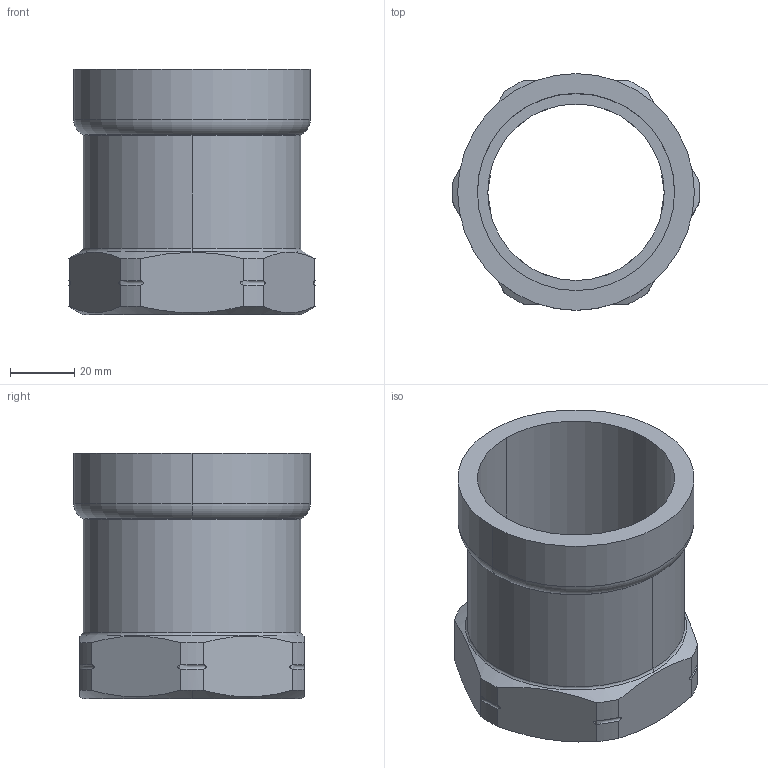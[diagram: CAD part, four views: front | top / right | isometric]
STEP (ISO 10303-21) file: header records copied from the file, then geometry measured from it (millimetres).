
FILE_DESCRIPTION(('Creo Elements/Direct Modeling STEP Export'),'2;1');
FILE_NAME('C9402_2.stp','2020-06-18T13:13:23',(''),(''),'PTC Creo Elements/Direct Modeling STEP processor for AP214 (Solid Model)','PTC Creo Elements/Direct Modeling 19.0C 15-Aug-2015 (C) Parametric Technology GmbH','');
FILE_SCHEMA(('AUTOMOTIVE_DESIGN { 1 0 10303 214 1 1 1 1 }'));
Length unit declared in the file: millimetre
Products named in the file (2): S9402_2
Assembly tree (1 placements, depth 2):
  S9402_2
    S9402_2
Bounding box: 77 x 73.8 x 76.47 mm (x, y, z)
Volume: 84144.4 mm3; surface area: 35126.8 mm2
Topology: 1 solids, 1 shells, 47 faces, 126 edges, 82 vertices
Faces by surface type: cylinder 18, torus 12, plane 9, cone 8
Entity records: 3997 total; most frequent: CARTESIAN_POINT 2857, ORIENTED_EDGE 252, DIRECTION 198, EDGE_CURVE 126, AXIS2_PLACEMENT_3D 86, VERTEX_POINT 82, EDGE_LOOP 50, FACE_OUTER_BOUND 47
